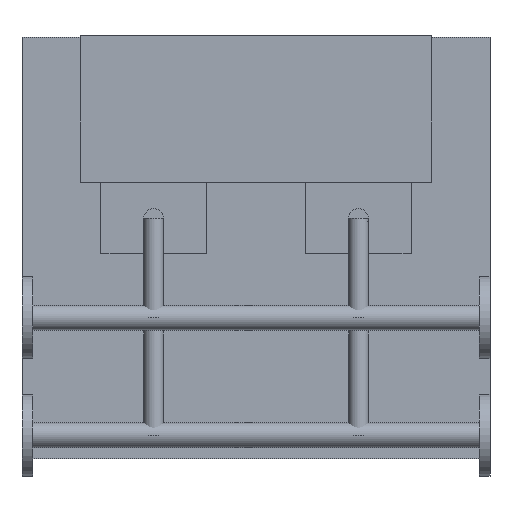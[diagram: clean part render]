
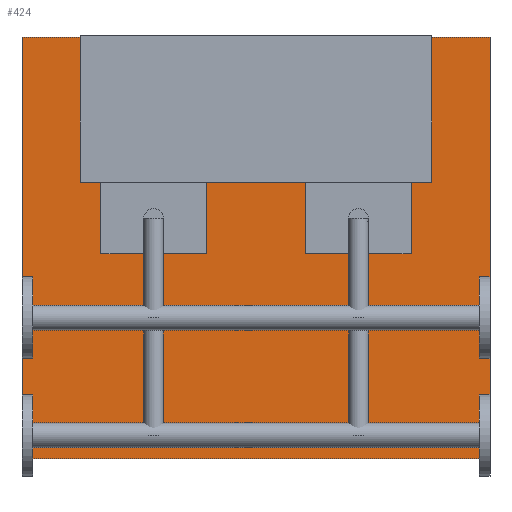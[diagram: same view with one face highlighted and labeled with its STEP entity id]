
A CAD part, top view. The second image highlights one B-rep face of the part: STEP entity #424.
In plain terms, the highlighted planar face has unit normal (0, 0, 1).
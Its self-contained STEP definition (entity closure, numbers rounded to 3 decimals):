
#110 = VERTEX_POINT('',#111);
#111 = CARTESIAN_POINT('',(0.,30.,120.));
#118 = PLANE('',#119);
#119 = AXIS2_PLACEMENT_3D('',#120,#121,#122);
#120 = CARTESIAN_POINT('',(0.,30.,0.));
#121 = DIRECTION('',(1.,0.,0.));
#122 = DIRECTION('',(0.,0.,1.));
#130 = PLANE('',#131);
#131 = AXIS2_PLACEMENT_3D('',#132,#133,#134);
#132 = CARTESIAN_POINT('',(0.,30.,0.));
#133 = DIRECTION('',(0.,1.,0.));
#134 = DIRECTION('',(0.,0.,1.));
#171 = VERTEX_POINT('',#172);
#172 = CARTESIAN_POINT('',(0.,750.,120.));
#186 = PLANE('',#187);
#187 = AXIS2_PLACEMENT_3D('',#188,#189,#190);
#188 = CARTESIAN_POINT('',(0.,750.,0.));
#189 = DIRECTION('',(0.,1.,0.));
#190 = DIRECTION('',(0.,0.,1.));
#198 = EDGE_CURVE('',#110,#171,#199,.T.);
#199 = SURFACE_CURVE('',#200,(#204,#211),.PCURVE_S1.);
#200 = LINE('',#201,#202);
#201 = CARTESIAN_POINT('',(0.,30.,120.));
#202 = VECTOR('',#203,1.);
#203 = DIRECTION('',(0.,1.,0.));
#204 = PCURVE('',#118,#205);
#205 = DEFINITIONAL_REPRESENTATION('',(#206),#210);
#206 = LINE('',#207,#208);
#207 = CARTESIAN_POINT('',(120.,0.));
#208 = VECTOR('',#209,1.);
#209 = DIRECTION('',(0.,-1.));
#210 = ( GEOMETRIC_REPRESENTATION_CONTEXT(2) 
PARAMETRIC_REPRESENTATION_CONTEXT() REPRESENTATION_CONTEXT('2D SPACE',''
  ) );
#211 = PCURVE('',#212,#217);
#212 = PLANE('',#213);
#213 = AXIS2_PLACEMENT_3D('',#214,#215,#216);
#214 = CARTESIAN_POINT('',(0.,30.,120.));
#215 = DIRECTION('',(0.,0.,1.));
#216 = DIRECTION('',(1.,0.,0.));
#217 = DEFINITIONAL_REPRESENTATION('',(#218),#222);
#218 = LINE('',#219,#220);
#219 = CARTESIAN_POINT('',(0.,0.));
#220 = VECTOR('',#221,1.);
#221 = DIRECTION('',(0.,1.));
#222 = ( GEOMETRIC_REPRESENTATION_CONTEXT(2) 
PARAMETRIC_REPRESENTATION_CONTEXT() REPRESENTATION_CONTEXT('2D SPACE',''
  ) );
#230 = VERTEX_POINT('',#231);
#231 = CARTESIAN_POINT('',(800.,30.,120.));
#238 = PLANE('',#239);
#239 = AXIS2_PLACEMENT_3D('',#240,#241,#242);
#240 = CARTESIAN_POINT('',(800.,30.,0.));
#241 = DIRECTION('',(1.,0.,0.));
#242 = DIRECTION('',(0.,0.,1.));
#281 = VERTEX_POINT('',#282);
#282 = CARTESIAN_POINT('',(800.,750.,120.));
#303 = EDGE_CURVE('',#230,#281,#304,.T.);
#304 = SURFACE_CURVE('',#305,(#309,#316),.PCURVE_S1.);
#305 = LINE('',#306,#307);
#306 = CARTESIAN_POINT('',(800.,30.,120.));
#307 = VECTOR('',#308,1.);
#308 = DIRECTION('',(0.,1.,0.));
#309 = PCURVE('',#238,#310);
#310 = DEFINITIONAL_REPRESENTATION('',(#311),#315);
#311 = LINE('',#312,#313);
#312 = CARTESIAN_POINT('',(120.,0.));
#313 = VECTOR('',#314,1.);
#314 = DIRECTION('',(0.,-1.));
#315 = ( GEOMETRIC_REPRESENTATION_CONTEXT(2) 
PARAMETRIC_REPRESENTATION_CONTEXT() REPRESENTATION_CONTEXT('2D SPACE',''
  ) );
#316 = PCURVE('',#212,#317);
#317 = DEFINITIONAL_REPRESENTATION('',(#318),#322);
#318 = LINE('',#319,#320);
#319 = CARTESIAN_POINT('',(800.,0.));
#320 = VECTOR('',#321,1.);
#321 = DIRECTION('',(0.,1.));
#322 = ( GEOMETRIC_REPRESENTATION_CONTEXT(2) 
PARAMETRIC_REPRESENTATION_CONTEXT() REPRESENTATION_CONTEXT('2D SPACE',''
  ) );
#349 = EDGE_CURVE('',#110,#230,#350,.T.);
#350 = SURFACE_CURVE('',#351,(#355,#362),.PCURVE_S1.);
#351 = LINE('',#352,#353);
#352 = CARTESIAN_POINT('',(0.,30.,120.));
#353 = VECTOR('',#354,1.);
#354 = DIRECTION('',(1.,0.,0.));
#355 = PCURVE('',#130,#356);
#356 = DEFINITIONAL_REPRESENTATION('',(#357),#361);
#357 = LINE('',#358,#359);
#358 = CARTESIAN_POINT('',(120.,0.));
#359 = VECTOR('',#360,1.);
#360 = DIRECTION('',(0.,1.));
#361 = ( GEOMETRIC_REPRESENTATION_CONTEXT(2) 
PARAMETRIC_REPRESENTATION_CONTEXT() REPRESENTATION_CONTEXT('2D SPACE',''
  ) );
#362 = PCURVE('',#212,#363);
#363 = DEFINITIONAL_REPRESENTATION('',(#364),#368);
#364 = LINE('',#365,#366);
#365 = CARTESIAN_POINT('',(0.,0.));
#366 = VECTOR('',#367,1.);
#367 = DIRECTION('',(1.,0.));
#368 = ( GEOMETRIC_REPRESENTATION_CONTEXT(2) 
PARAMETRIC_REPRESENTATION_CONTEXT() REPRESENTATION_CONTEXT('2D SPACE',''
  ) );
#396 = EDGE_CURVE('',#171,#281,#397,.T.);
#397 = SURFACE_CURVE('',#398,(#402,#409),.PCURVE_S1.);
#398 = LINE('',#399,#400);
#399 = CARTESIAN_POINT('',(0.,750.,120.));
#400 = VECTOR('',#401,1.);
#401 = DIRECTION('',(1.,0.,0.));
#402 = PCURVE('',#186,#403);
#403 = DEFINITIONAL_REPRESENTATION('',(#404),#408);
#404 = LINE('',#405,#406);
#405 = CARTESIAN_POINT('',(120.,0.));
#406 = VECTOR('',#407,1.);
#407 = DIRECTION('',(0.,1.));
#408 = ( GEOMETRIC_REPRESENTATION_CONTEXT(2) 
PARAMETRIC_REPRESENTATION_CONTEXT() REPRESENTATION_CONTEXT('2D SPACE',''
  ) );
#409 = PCURVE('',#212,#410);
#410 = DEFINITIONAL_REPRESENTATION('',(#411),#415);
#411 = LINE('',#412,#413);
#412 = CARTESIAN_POINT('',(0.,720.));
#413 = VECTOR('',#414,1.);
#414 = DIRECTION('',(1.,0.));
#415 = ( GEOMETRIC_REPRESENTATION_CONTEXT(2) 
PARAMETRIC_REPRESENTATION_CONTEXT() REPRESENTATION_CONTEXT('2D SPACE',''
  ) );
#424 = ADVANCED_FACE('',(#425),#212,.T.);
#425 = FACE_BOUND('',#426,.T.);
#426 = EDGE_LOOP('',(#427,#428,#429,#430));
#427 = ORIENTED_EDGE('',*,*,#198,.F.);
#428 = ORIENTED_EDGE('',*,*,#349,.T.);
#429 = ORIENTED_EDGE('',*,*,#303,.T.);
#430 = ORIENTED_EDGE('',*,*,#396,.F.);
